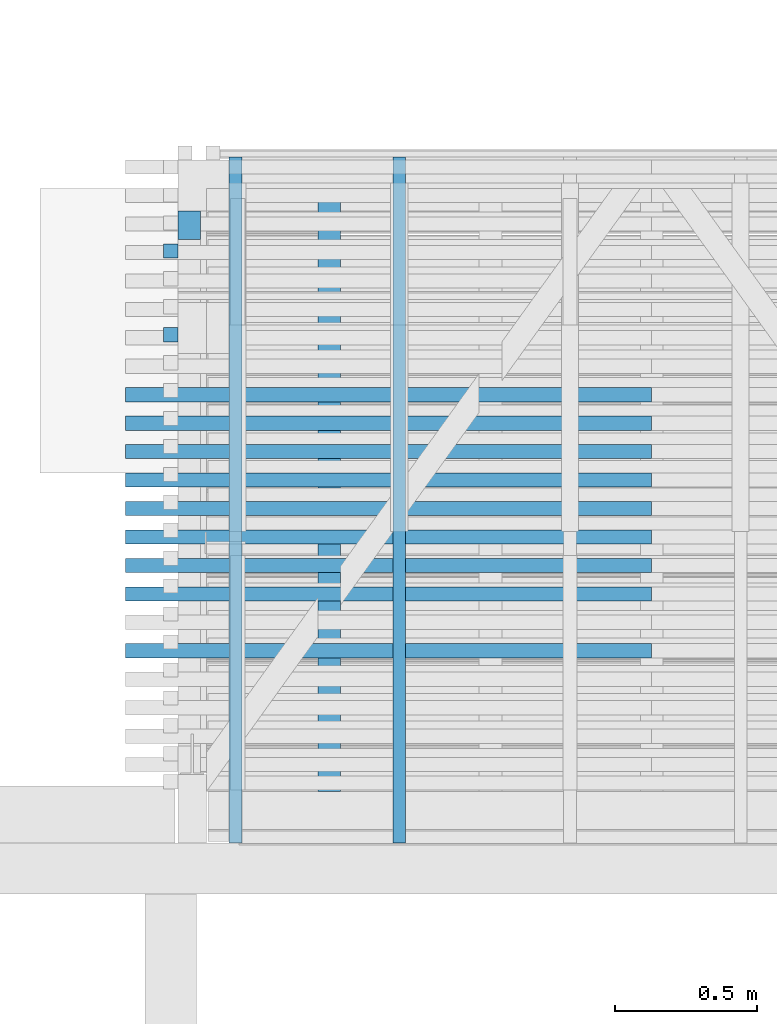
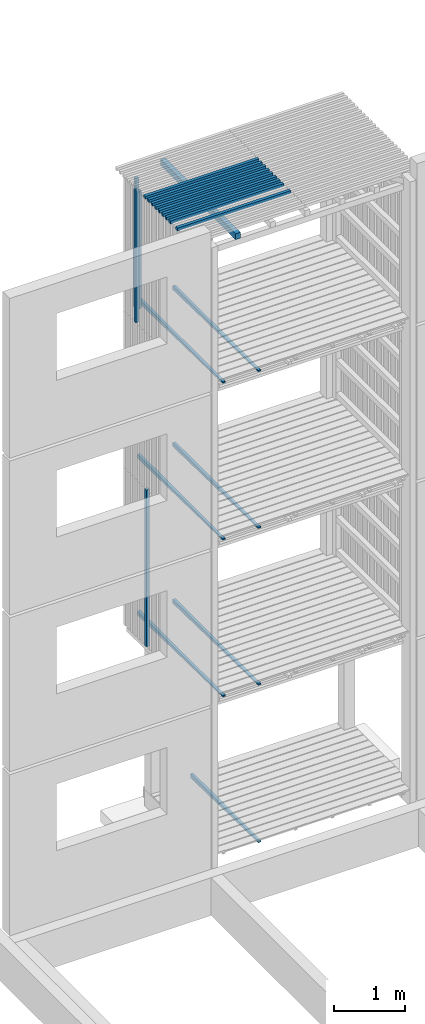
# One storey, part 91 of 182: 20 beams.
"""IFC2X3 building model written with IfcOpenShell, lengths in metres."""

import ifcopenshell
import ifcopenshell.guid

model = None  # the IFC model being written
_history = None  # IfcOwnerHistory: only IFC2X3 demands one
_inside = {}  # id of a spatial element -> (the spatial element, [elements in it])
_under = {}  # id of a project, library or spatial element -> (it, [spatial elements below it])
_declared = {}  # id of a project -> (the project, [libraries it declares])
_typed = {}  # id of a type object -> (the type object, [elements of that type])
_made_of = {}  # id of a material, layer set ... -> (it, [elements and type objects made of it])


def new_model(schema):
    """Start an empty IFC model of exactly this schema.

    Asked for "IFC4X3", IfcOpenShell would pick the latest addendum, in which some entities
    have other attributes; the version numbers below select the first issue.
    IFC2X3 requires an IfcOwnerHistory on every rooted entity: one is made here for all.
    """
    global model, _history
    if schema == "IFC4X3":
        model = ifcopenshell.file(schema_version=(4, 3, 0, 0))
    else:
        model = ifcopenshell.file(schema=schema)
    _inside.clear()
    _under.clear()
    _declared.clear()
    _typed.clear()
    _made_of.clear()
    _history = None
    if model.schema == "IFC2X3":
        org = make("IfcOrganization", Name="unknown")
        user = make(
            "IfcPersonAndOrganization",
            ThePerson=make("IfcPerson", FamilyName="unknown"),
            TheOrganization=org,
        )
        app = make(
            "IfcApplication",
            ApplicationDeveloper=org,
            Version="unknown",
            ApplicationFullName="unknown",
            ApplicationIdentifier="unknown",
        )
        _history = make(
            "IfcOwnerHistory",
            OwningUser=user,
            OwningApplication=app,
            ChangeAction="ADDED",
            CreationDate=0,
        )
    return model


def make(cls, **values):
    """One entity of the class cls with the attributes given. An attribute that is None is left unset."""
    return model.create_entity(
        cls, **{name: value for name, value in values.items() if value is not None}
    )


def rooted(cls, **values):
    """An entity with a GlobalId (a new one), such as an element, a storey or a relation."""
    return make(cls, GlobalId=ifcopenshell.guid.new(), OwnerHistory=_history, **values)


def si_unit(unit_type, name, prefix=None):
    """IfcSIUnit, for example si_unit("LENGTHUNIT", "METRE", prefix="MILLI")."""
    return make("IfcSIUnit", UnitType=unit_type, Prefix=prefix, Name=name)


def assignment(units):
    """IfcUnitAssignment: the units of a project."""
    return None if units is None else make("IfcUnitAssignment", Units=units)


def point(xyz):
    """IfcCartesianPoint."""
    return None if xyz is None else make("IfcCartesianPoint", Coordinates=xyz)


def direction(xyz):
    """IfcDirection."""
    return None if xyz is None else make("IfcDirection", DirectionRatios=xyz)


def frame(location, z_axis=None, x_axis=None):
    """IfcAxis2Placement3D, a coordinate frame: its origin and axes. An axis left out is left unset."""
    return make(
        "IfcAxis2Placement3D",
        Location=point(location),
        Axis=direction(z_axis),
        RefDirection=direction(x_axis),
    )


def origin():
    """The frame at (0, 0, 0) with its axes left unset."""
    return frame((0.0, 0.0, 0.0))


def place(relative_to, where):
    """IfcLocalPlacement: puts the frame where relative to a parent placement (None: the world)."""
    return make(
        "IfcLocalPlacement", PlacementRelTo=relative_to, RelativePlacement=where
    )


def context(
    kind, dimensions, precision=None, world=None, true_north=None, identifier=None
):
    """IfcGeometricRepresentationContext, for example the 3D "Model" context."""
    return make(
        "IfcGeometricRepresentationContext",
        ContextIdentifier=identifier,
        ContextType=kind,
        CoordinateSpaceDimension=dimensions,
        Precision=precision,
        WorldCoordinateSystem=world,
        TrueNorth=true_north,
    )


def project(units=None, contexts=None):
    """IfcProject with its units and contexts."""
    return rooted(
        "IfcProject",
        Name="project",
        RepresentationContexts=contexts,
        UnitsInContext=assignment(units),
    )


def spatial(cls, under=None, at=None, **own):
    """A site, building, storey or space (cls), placed at a placement, below another one or the project."""
    s = rooted(cls, ObjectPlacement=at, **own)
    if under is not None:
        _under.setdefault(under.id(), (under, []))[1].append(s)
    return s


def faces_of(points, faces, orient=None, outer=None):
    """IfcFace entities. A face is a list of loops; a loop is a list of indices into points, from 0.

    orient and outer hold one flag for each loop. By default every Orientation is true, the
    first loop of a face is its IfcFaceOuterBound and the others are IfcFaceBound.
    """
    made = []
    for i, loops in enumerate(faces):
        bounds = []
        for j, loop in enumerate(loops):
            is_outer = j == 0 if outer is None else outer[i][j]
            bounds.append(
                make(
                    "IfcFaceOuterBound" if is_outer else "IfcFaceBound",
                    Bound=make("IfcPolyLoop", Polygon=[points[k] for k in loop]),
                    Orientation=True if orient is None else orient[i][j],
                )
            )
        made.append(make("IfcFace", Bounds=bounds))
    return made


def faceted_brep(points, faces, orient=None, outer=None, voids=None):
    """IfcFacetedBrep: a solid bounded by flat faces; with voids (closed shells), ...WithVoids."""
    shared = [point(p) for p in points]
    hull = make("IfcClosedShell", CfsFaces=faces_of(shared, faces, orient, outer))
    if voids is None:
        return make("IfcFacetedBrep", Outer=hull)
    return make(
        "IfcFacetedBrepWithVoids",
        Outer=hull,
        Voids=[
            make(cls, CfsFaces=faces_of(shared, fs, o, b)) for cls, fs, o, b in voids
        ],
    )


def shape(context_of_items, identifier, shape_type, items):
    """IfcShapeRepresentation: the items that make up one representation, for example the "Body"."""
    return make(
        "IfcShapeRepresentation",
        ContextOfItems=context_of_items,
        RepresentationIdentifier=identifier,
        RepresentationType=shape_type,
        Items=items,
    )


def made_of(thing, what):
    """Note that an element or type object is made of a material, layer set ...; save() writes the relation."""
    if what is not None:
        _made_of.setdefault(what.id(), (what, []))[1].append(thing)
    return thing


def element(
    cls,
    number,
    at=None,
    inside=None,
    cuts=None,
    type_object=None,
    material=None,
    context=None,
    identifier="Body",
    shape_type=None,
    held_by="IfcProductDefinitionShape",
    body=None,
    shapes=None,
    **own,
):
    """One element of the class cls, such as IfcWall. Its Tag is "e" and its number.

    at: its placement. inside: the storey or other place that contains it. cuts: it is an
    opening in that element (IfcRelVoidsElement). A single representation is given by context,
    identifier, shape_type and body (its items); several are given by shapes. held_by: the class
    of the entity that holds the representations. save() writes the other relations.
    """
    e = rooted(cls, Tag="e%d" % number, ObjectPlacement=at, **own)
    if body is not None:
        shapes = [shape(context, identifier, shape_type, body)]
    if shapes is not None:
        e.Representation = make(held_by, Representations=shapes)
    if inside is not None:
        _inside.setdefault(inside.id(), (inside, []))[1].append(e)
    if cuts is not None:
        rooted(
            "IfcRelVoidsElement", RelatingBuildingElement=cuts, RelatedOpeningElement=e
        )
    if type_object is not None:
        _typed.setdefault(type_object.id(), (type_object, []))[1].append(e)
    return made_of(e, material)


def aggregate(whole, parts):
    """IfcRelAggregates: a whole, such as a stair, and the parts it consists of."""
    return rooted("IfcRelAggregates", RelatingObject=whole, RelatedObjects=parts)


def save(model, path):
    """Write the relations noted so far, then the file.

    IfcRelAggregates (storeys below a building ...), IfcRelContainedInSpatialStructure (elements
    in a storey), IfcRelDefinesByType, IfcRelAssociatesMaterial and IfcRelDeclares: one each for
    every whole, place, type object, material and project.
    """
    for whole, parts in _under.values():
        aggregate(whole, parts)
    for where, things in _inside.values():
        rooted(
            "IfcRelContainedInSpatialStructure",
            RelatedElements=things,
            RelatingStructure=where,
        )
    for kind, things in _typed.values():
        rooted("IfcRelDefinesByType", RelatedObjects=things, RelatingType=kind)
    for what, things in _made_of.values():
        rooted("IfcRelAssociatesMaterial", RelatedObjects=things, RelatingMaterial=what)
    for by, libraries in _declared.values():
        rooted("IfcRelDeclares", RelatingContext=by, RelatedDefinitions=libraries)
    model.write(path)


model = new_model("IFC2X3")

# Units and contexts
model_context = context("Model", 3, precision=1e-06, world=origin())
ifc_project = project(units=[si_unit("LENGTHUNIT", "METRE"), si_unit("PLANEANGLEUNIT", "RADIAN")], contexts=[model_context])

# Site, building, storey
site = spatial("IfcSite", under=ifc_project, CompositionType="ELEMENT")
building = spatial("IfcBuilding", under=site, CompositionType="ELEMENT")
storey = spatial("IfcBuildingStorey", under=building, Name="vs", CompositionType="ELEMENT", Elevation=-0.85)

# Beams
placement = place(None, origin())
beam_1_placement = place(placement, frame((42.99040135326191, 6.950532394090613, 7.974999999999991), z_axis=(1.0, 0.0, 0.0), x_axis=(0.0, 0.0, 1.0)))
element("IfcBeam", 1, at=beam_1_placement, inside=storey, Name="Bardage", context=model_context, shape_type="Brep", body=[
    faceted_brep([(0.0, -0.025000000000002, 0.025000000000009), (0.0, 0.025000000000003, 0.025000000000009), (0.0, 0.025000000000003, -0.025000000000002), (0.0, -0.025000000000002, -0.025000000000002), (2.479999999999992, 0.025000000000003, -0.025000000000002), (2.479999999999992, 0.025000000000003, 0.025000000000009), (2.479999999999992, -0.025000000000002, 0.025000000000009), (2.479999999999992, -0.025000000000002, -0.025000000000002), (0.0, 0.025000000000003, 0.025000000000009), (0.0, -0.025000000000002, 0.025000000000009), (2.479999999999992, -0.025000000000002, 0.025000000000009), (2.479999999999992, 0.025000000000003, 0.025000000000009), (0.0, 0.025000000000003, -0.025000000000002), (0.0, 0.025000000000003, 0.025000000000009), (2.479999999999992, 0.025000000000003, 0.025000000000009), (2.479999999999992, 0.025000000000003, -0.025000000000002), (0.0, -0.025000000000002, -0.025000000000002), (0.0, 0.025000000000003, -0.025000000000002), (2.479999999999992, 0.025000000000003, -0.025000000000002), (2.479999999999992, -0.025000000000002, -0.025000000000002), (2.479999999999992, -0.025000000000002, 0.025000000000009), (0.0, -0.025000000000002, 0.025000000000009), (0.0, -0.025000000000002, -0.025000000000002), (2.479999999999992, -0.025000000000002, -0.025000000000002)], [[[0, 1, 2, 3]], [[4, 5, 6, 7]], [[8, 9, 10, 11]], [[12, 13, 14, 15]], [[16, 17, 18, 19]], [[20, 21, 22, 23]]]),
])
beam_2_placement = place(placement, frame((42.99040135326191, 6.65598693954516, 2.575000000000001), z_axis=(1.0, 0.0, 0.0), x_axis=(0.0, 0.0, 1.0)))
element("IfcBeam", 2, at=beam_2_placement, inside=storey, Name="Bardage", context=model_context, shape_type="Brep", body=[
    faceted_brep([(2.699961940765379, -0.025000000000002, 0.025000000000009), (2.699961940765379, -0.025000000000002, -0.025000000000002), (2.699961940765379, 0.024999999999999, -0.025000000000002), (2.699961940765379, 0.024999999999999, 0.025000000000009), (0.0, -0.025000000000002, 0.025000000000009), (2.699961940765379, -0.025000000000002, 0.025000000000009), (2.699961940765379, 0.024999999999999, 0.025000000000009), (0.0, 0.024999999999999, 0.025000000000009), (0.0, -0.025000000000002, 0.025000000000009), (0.0, 0.024999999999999, 0.025000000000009), (0.0, 0.024999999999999, -0.025000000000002), (0.0, -0.025000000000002, -0.025000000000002), (0.0, -0.025000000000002, 0.025000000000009), (0.0, -0.025000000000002, -0.025000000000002), (2.699961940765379, -0.025000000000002, -0.025000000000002), (2.699961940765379, -0.025000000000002, 0.025000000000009), (0.0, -0.025000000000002, -0.025000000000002), (0.0, 0.024999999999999, -0.025000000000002), (2.699961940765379, 0.024999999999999, -0.025000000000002), (2.699961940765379, -0.025000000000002, -0.025000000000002), (0.0, 0.024999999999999, -0.025000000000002), (0.0, 0.024999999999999, 0.025000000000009), (2.699961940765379, 0.024999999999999, 0.025000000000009), (2.699961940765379, 0.024999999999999, -0.025000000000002)], [[[0, 1, 2, 3]], [[4, 5, 6, 7]], [[8, 9, 10, 11]], [[12, 13, 14, 15]], [[16, 17, 18, 19]], [[20, 21, 22, 23]]]),
])
beam_3_placement = place(placement, frame((43.055401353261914, 7.04007784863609, 8.146999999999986), z_axis=(0.0, -1.0, 0.0), x_axis=(0.0, 0.0, 1.0)))
element("IfcBeam", 3, at=beam_3_placement, inside=storey, Name="Support bardage", context=model_context, shape_type="Brep", body=[
    faceted_brep([(2.017999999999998, -0.040000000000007, -0.050000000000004), (2.017999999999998, 0.039999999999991, -0.050000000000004), (2.017999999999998, 0.039999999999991, 0.049999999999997), (2.017999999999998, -0.040000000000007, 0.049999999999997), (1e-15, 0.039999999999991, -0.050000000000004), (1e-15, -0.040000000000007, -0.050000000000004), (1e-15, -0.040000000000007, 0.049999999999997), (1e-15, 0.039999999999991, 0.049999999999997), (2.017999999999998, 0.039999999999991, 0.049999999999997), (2.017999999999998, 0.039999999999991, -0.050000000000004), (1e-15, 0.039999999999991, -0.050000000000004), (1e-15, 0.039999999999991, 0.049999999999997), (1e-15, 0.039999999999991, -0.050000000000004), (2.017999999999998, 0.039999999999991, -0.050000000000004), (2.017999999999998, -0.040000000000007, -0.050000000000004), (1e-15, -0.040000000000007, -0.050000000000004), (1e-15, -0.040000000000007, -0.050000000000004), (2.017999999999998, -0.040000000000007, -0.050000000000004), (2.017999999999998, -0.040000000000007, 0.049999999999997), (1e-15, -0.040000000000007, 0.049999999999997), (1e-15, -0.040000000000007, 0.049999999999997), (2.017999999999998, -0.040000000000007, 0.049999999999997), (2.017999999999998, 0.039999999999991, 0.049999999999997), (1e-15, 0.039999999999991, 0.049999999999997)], [[[0, 1, 2, 3]], [[4, 5, 6, 7]], [[8, 9, 10, 11]], [[12, 13, 14, 15]], [[16, 17, 18, 19]], [[20, 21, 22, 23]]]),
])
beam_4_placement = place(placement, frame((44.68040135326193, 6.045077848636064, 10.47999999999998), z_axis=(0.0, 0.0, 1.0), x_axis=(-1.0, 0.0, 0.0)))
element("IfcBeam", 4, at=beam_4_placement, inside=storey, Name="Bardage", context=model_context, shape_type="Brep", body=[
    faceted_brep([(1.850000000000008, -0.024999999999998, -0.024999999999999), (1.850000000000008, -0.024999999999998, 0.025000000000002), (-1e-15, -0.025000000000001, 0.025000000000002), (-1e-15, -0.025000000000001, -0.024999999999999), (1.850000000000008, -0.024999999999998, 0.025000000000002), (1.850000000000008, -0.024999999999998, -0.024999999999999), (1.850000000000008, 0.024999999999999, -0.024999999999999), (1.850000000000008, 0.024999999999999, 0.025000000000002), (1.850000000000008, 0.024999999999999, -0.024999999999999), (1.850000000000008, -0.024999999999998, -0.024999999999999), (-1e-15, -0.025000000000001, -0.024999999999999), (-1e-15, 0.024999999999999, -0.024999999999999), (1.850000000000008, 0.024999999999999, 0.025000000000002), (1.850000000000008, 0.024999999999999, -0.024999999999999), (-1e-15, 0.024999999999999, -0.024999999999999), (-1e-15, 0.024999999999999, 0.025000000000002), (-1e-15, -0.025000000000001, 0.025000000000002), (1.850000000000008, -0.024999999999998, 0.025000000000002), (1.850000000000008, 0.024999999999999, 0.025000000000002), (-1e-15, 0.024999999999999, 0.025000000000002), (-1e-15, -0.025000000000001, -0.024999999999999), (-1e-15, -0.025000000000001, 0.025000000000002), (-1e-15, 0.024999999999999, 0.025000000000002), (-1e-15, 0.024999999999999, -0.024999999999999)], [[[0, 1, 2, 3]], [[4, 5, 6, 7]], [[8, 9, 10, 11]], [[12, 13, 14, 15]], [[16, 17, 18, 19]], [[20, 21, 22, 23]]]),
])
beam_5_placement = place(placement, frame((43.21790135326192, 4.870077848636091, 5.384400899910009), z_axis=(0.0, 0.0, 1.0), x_axis=(0.0, 1.0, 0.0)))
element("IfcBeam", 5, at=beam_5_placement, inside=storey, Name="Calage", context=model_context, shape_type="Brep", body=[
    faceted_brep([(2.41000000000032, -0.022499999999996, -0.035599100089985), (0.0, -0.022499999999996, 0.012600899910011), (0.0, 0.022500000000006, 0.012600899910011), (2.41000000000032, 0.022500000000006, -0.035599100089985), (0.0, 0.022500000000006, 0.035599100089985), (0.0, 0.022500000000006, 0.012600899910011), (0.0, -0.022499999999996, 0.012600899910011), (0.0, -0.022499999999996, 0.035599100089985), (2.41000000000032, 0.022500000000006, -0.035599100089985), (0.0, 0.022500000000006, 0.012600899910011), (0.0, 0.022500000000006, 0.035599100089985), (2.41000000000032, 0.022500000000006, 0.035599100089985), (2.41000000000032, -0.022499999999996, 0.035599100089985), (0.0, -0.022499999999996, 0.035599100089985), (0.0, -0.022499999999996, 0.012600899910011), (2.41000000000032, -0.022499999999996, -0.035599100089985), (2.41000000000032, 0.022500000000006, 0.035599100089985), (0.0, 0.022500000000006, 0.035599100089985), (0.0, -0.022499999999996, 0.035599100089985), (2.41000000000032, -0.022499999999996, 0.035599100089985), (2.41000000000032, 0.022500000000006, -0.035599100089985), (2.41000000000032, 0.022500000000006, 0.035599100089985), (2.41000000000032, -0.022499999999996, 0.035599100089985), (2.41000000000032, -0.022499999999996, -0.035599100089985)], [[[0, 1, 2, 3]], [[4, 5, 6, 7]], [[8, 9, 10, 11]], [[12, 13, 14, 15]], [[16, 17, 18, 19]], [[20, 21, 22, 23]]]),
])
beam_6_placement = place(placement, frame((43.79340135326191, 4.870077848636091, -0.015599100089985), z_axis=(0.0, 0.0, 1.0), x_axis=(0.0, 1.0, 0.0)))
element("IfcBeam", 6, at=beam_6_placement, inside=storey, Name="Calage", context=model_context, shape_type="Brep", body=[
    faceted_brep([(0.0, 0.022499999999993, 0.002600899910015), (1.91000000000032, 0.022499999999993, -0.035599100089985), (1.91000000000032, -0.022500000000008, -0.035599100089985), (0.0, -0.022500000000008, 0.002600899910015), (0.0, -0.022500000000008, 0.035599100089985), (0.0, 0.022499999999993, 0.035599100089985), (0.0, 0.022499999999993, 0.002600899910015), (0.0, -0.022500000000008, 0.002600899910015), (0.0, 0.022499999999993, 0.035599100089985), (0.0, -0.022500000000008, 0.035599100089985), (1.91000000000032, -0.022500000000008, 0.035599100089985), (1.91000000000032, 0.022499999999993, 0.035599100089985), (0.0, 0.022499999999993, 0.002600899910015), (0.0, 0.022499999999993, 0.035599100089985), (1.91000000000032, 0.022499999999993, 0.035599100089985), (1.91000000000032, 0.022499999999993, -0.035599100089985), (1.91000000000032, 0.022499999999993, -0.035599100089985), (1.91000000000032, 0.022499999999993, 0.035599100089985), (1.91000000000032, -0.022500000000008, 0.035599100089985), (1.91000000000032, -0.022500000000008, -0.035599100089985), (1.91000000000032, -0.022500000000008, -0.035599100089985), (1.91000000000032, -0.022500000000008, 0.035599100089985), (0.0, -0.022500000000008, 0.035599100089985), (0.0, -0.022500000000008, 0.002600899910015)], [[[0, 1, 2, 3]], [[4, 5, 6, 7]], [[8, 9, 10, 11]], [[12, 13, 14, 15]], [[16, 17, 18, 19]], [[20, 21, 22, 23]]]),
])
beam_7_placement = place(placement, frame((44.68040135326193, 6.445077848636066, 10.47999999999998), z_axis=(0.0, 0.0, 1.0), x_axis=(-1.0, -2e-15, 0.0)))
element("IfcBeam", 7, at=beam_7_placement, inside=storey, Name="Bardage", context=model_context, shape_type="Brep", body=[
    faceted_brep([(1.850000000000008, -0.025000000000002, -0.024999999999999), (1.850000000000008, -0.025000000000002, 0.025000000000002), (-1e-15, -0.025000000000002, 0.025000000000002), (-1e-15, -0.025000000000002, -0.024999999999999), (1.850000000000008, -0.025000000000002, 0.025000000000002), (1.850000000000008, -0.025000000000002, -0.024999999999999), (1.850000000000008, 0.024999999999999, -0.024999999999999), (1.850000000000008, 0.024999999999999, 0.025000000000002), (1.850000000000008, 0.024999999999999, -0.024999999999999), (1.850000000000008, -0.025000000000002, -0.024999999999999), (-1e-15, -0.025000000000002, -0.024999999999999), (-1e-15, 0.025000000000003, -0.024999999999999), (1.850000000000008, 0.024999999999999, 0.025000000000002), (1.850000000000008, 0.024999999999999, -0.024999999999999), (-1e-15, 0.025000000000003, -0.024999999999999), (-1e-15, 0.025000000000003, 0.025000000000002), (-1e-15, -0.025000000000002, 0.025000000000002), (1.850000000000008, -0.025000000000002, 0.025000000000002), (1.850000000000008, 0.024999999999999, 0.025000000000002), (-1e-15, 0.025000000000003, 0.025000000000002), (-1e-15, -0.025000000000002, -0.024999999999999), (-1e-15, -0.025000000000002, 0.025000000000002), (-1e-15, 0.025000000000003, 0.025000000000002), (-1e-15, 0.025000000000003, -0.024999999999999)], [[[0, 1, 2, 3]], [[4, 5, 6, 7]], [[8, 9, 10, 11]], [[12, 13, 14, 15]], [[16, 17, 18, 19]], [[20, 21, 22, 23]]]),
])
beam_8_placement = place(placement, frame((43.79340135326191, 4.870077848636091, 2.684400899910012), z_axis=(0.0, 0.0, 1.0), x_axis=(0.0, 1.0, 0.0)))
element("IfcBeam", 8, at=beam_8_placement, inside=storey, Name="Calage", context=model_context, shape_type="Brep", body=[
    faceted_brep([(2.41000000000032, -0.022500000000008, -0.035599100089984), (0.0, -0.022500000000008, 0.012600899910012), (0.0, 0.022499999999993, 0.012600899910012), (2.41000000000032, 0.022499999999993, -0.035599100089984), (0.0, 0.022499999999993, 0.035599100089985), (0.0, 0.022499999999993, 0.012600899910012), (0.0, -0.022500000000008, 0.012600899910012), (0.0, -0.022500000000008, 0.035599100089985), (2.41000000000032, 0.022499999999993, -0.035599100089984), (0.0, 0.022499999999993, 0.012600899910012), (0.0, 0.022499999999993, 0.035599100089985), (2.41000000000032, 0.022499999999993, 0.035599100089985), (2.41000000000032, -0.022500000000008, 0.035599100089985), (0.0, -0.022500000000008, 0.035599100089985), (0.0, -0.022500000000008, 0.012600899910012), (2.41000000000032, -0.022500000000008, -0.035599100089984), (2.41000000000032, 0.022499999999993, 0.035599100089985), (0.0, 0.022499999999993, 0.035599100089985), (0.0, -0.022500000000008, 0.035599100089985), (2.41000000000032, -0.022500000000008, 0.035599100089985), (2.41000000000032, 0.022499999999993, -0.035599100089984), (2.41000000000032, 0.022499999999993, 0.035599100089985), (2.41000000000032, -0.022500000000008, 0.035599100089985), (2.41000000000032, -0.022500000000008, -0.035599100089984)], [[[0, 1, 2, 3]], [[4, 5, 6, 7]], [[8, 9, 10, 11]], [[12, 13, 14, 15]], [[16, 17, 18, 19]], [[20, 21, 22, 23]]]),
])
beam_9_placement = place(placement, frame((43.21790135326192, 4.870077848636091, 2.684400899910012), z_axis=(0.0, 0.0, 1.0), x_axis=(0.0, 1.0, 0.0)))
element("IfcBeam", 9, at=beam_9_placement, inside=storey, Name="Calage", context=model_context, shape_type="Brep", body=[
    faceted_brep([(2.41000000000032, -0.022499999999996, -0.035599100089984), (0.0, -0.022499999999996, 0.012600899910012), (0.0, 0.022500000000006, 0.012600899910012), (2.41000000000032, 0.022500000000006, -0.035599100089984), (0.0, 0.022500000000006, 0.035599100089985), (0.0, 0.022500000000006, 0.012600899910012), (0.0, -0.022499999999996, 0.012600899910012), (0.0, -0.022499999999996, 0.035599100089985), (2.41000000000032, 0.022500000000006, -0.035599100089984), (0.0, 0.022500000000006, 0.012600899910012), (0.0, 0.022500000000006, 0.035599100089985), (2.41000000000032, 0.022500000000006, 0.035599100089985), (2.41000000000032, -0.022499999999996, 0.035599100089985), (0.0, -0.022499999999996, 0.035599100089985), (0.0, -0.022499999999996, 0.012600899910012), (2.41000000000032, -0.022499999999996, -0.035599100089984), (2.41000000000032, 0.022500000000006, 0.035599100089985), (0.0, 0.022500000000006, 0.035599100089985), (0.0, -0.022499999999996, 0.035599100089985), (2.41000000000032, -0.022499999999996, 0.035599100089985), (2.41000000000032, 0.022500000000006, -0.035599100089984), (2.41000000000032, 0.022500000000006, 0.035599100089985), (2.41000000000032, -0.022499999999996, 0.035599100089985), (2.41000000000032, -0.022499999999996, -0.035599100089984)], [[[0, 1, 2, 3]], [[4, 5, 6, 7]], [[8, 9, 10, 11]], [[12, 13, 14, 15]], [[16, 17, 18, 19]], [[20, 21, 22, 23]]]),
])
beam_10_placement = place(placement, frame((44.68040135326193, 5.545077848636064, 10.47999999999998), z_axis=(0.0, 0.0, 1.0), x_axis=(-1.0, 0.0, 0.0)))
element("IfcBeam", 10, at=beam_10_placement, inside=storey, Name="Bardage", context=model_context, shape_type="Brep", body=[
    faceted_brep([(1.850000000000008, -0.024999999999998, -0.024999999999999), (1.850000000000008, -0.024999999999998, 0.025000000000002), (-1e-15, -0.025000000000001, 0.025000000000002), (-1e-15, -0.025000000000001, -0.024999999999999), (1.850000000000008, -0.024999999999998, 0.025000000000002), (1.850000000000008, -0.024999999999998, -0.024999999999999), (1.850000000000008, 0.024999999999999, -0.024999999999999), (1.850000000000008, 0.024999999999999, 0.025000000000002), (1.850000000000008, 0.024999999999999, -0.024999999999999), (1.850000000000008, -0.024999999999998, -0.024999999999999), (-1e-15, -0.025000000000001, -0.024999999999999), (-1e-15, 0.024999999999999, -0.024999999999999), (1.850000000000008, 0.024999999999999, 0.025000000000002), (1.850000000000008, 0.024999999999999, -0.024999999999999), (-1e-15, 0.024999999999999, -0.024999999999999), (-1e-15, 0.024999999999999, 0.025000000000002), (-1e-15, -0.025000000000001, 0.025000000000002), (1.850000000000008, -0.024999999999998, 0.025000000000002), (1.850000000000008, 0.024999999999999, 0.025000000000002), (-1e-15, 0.024999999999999, 0.025000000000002), (-1e-15, -0.025000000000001, -0.024999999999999), (-1e-15, -0.025000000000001, 0.025000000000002), (-1e-15, 0.024999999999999, 0.025000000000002), (-1e-15, 0.024999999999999, -0.024999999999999)], [[[0, 1, 2, 3]], [[4, 5, 6, 7]], [[8, 9, 10, 11]], [[12, 13, 14, 15]], [[16, 17, 18, 19]], [[20, 21, 22, 23]]]),
])
beam_11_placement = place(placement, frame((43.79340135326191, 4.870077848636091, 8.084400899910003), z_axis=(0.0, 0.0, 1.0), x_axis=(0.0, 1.0, 0.0)))
element("IfcBeam", 11, at=beam_11_placement, inside=storey, Name="Calage", context=model_context, shape_type="Brep", body=[
    faceted_brep([(2.41000000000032, -0.022500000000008, -0.035599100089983), (0.0, -0.022500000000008, 0.012600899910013), (0.0, 0.022499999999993, 0.012600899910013), (2.41000000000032, 0.022499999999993, -0.035599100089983), (0.0, 0.022499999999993, 0.035599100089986), (0.0, 0.022499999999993, 0.012600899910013), (0.0, -0.022500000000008, 0.012600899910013), (0.0, -0.022500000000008, 0.035599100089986), (2.41000000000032, 0.022499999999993, -0.035599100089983), (0.0, 0.022499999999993, 0.012600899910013), (0.0, 0.022499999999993, 0.035599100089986), (2.41000000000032, 0.022499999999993, 0.035599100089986), (2.41000000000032, -0.022500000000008, 0.035599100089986), (0.0, -0.022500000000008, 0.035599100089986), (0.0, -0.022500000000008, 0.012600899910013), (2.41000000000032, -0.022500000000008, -0.035599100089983), (2.41000000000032, 0.022499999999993, 0.035599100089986), (0.0, 0.022499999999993, 0.035599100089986), (0.0, -0.022500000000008, 0.035599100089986), (2.41000000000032, -0.022500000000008, 0.035599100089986), (2.41000000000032, 0.022499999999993, -0.035599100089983), (2.41000000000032, 0.022499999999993, 0.035599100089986), (2.41000000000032, -0.022500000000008, 0.035599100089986), (2.41000000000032, -0.022500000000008, -0.035599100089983)], [[[0, 1, 2, 3]], [[4, 5, 6, 7]], [[8, 9, 10, 11]], [[12, 13, 14, 15]], [[16, 17, 18, 19]], [[20, 21, 22, 23]]]),
])
beam_12_placement = place(placement, frame((43.21790135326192, 4.870077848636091, 8.084400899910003), z_axis=(0.0, 0.0, 1.0), x_axis=(0.0, 1.0, 0.0)))
element("IfcBeam", 12, at=beam_12_placement, inside=storey, Name="Calage", context=model_context, shape_type="Brep", body=[
    faceted_brep([(2.41000000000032, -0.022499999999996, -0.035599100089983), (0.0, -0.022499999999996, 0.012600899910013), (0.0, 0.022500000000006, 0.012600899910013), (2.41000000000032, 0.022500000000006, -0.035599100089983), (0.0, 0.022500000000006, 0.035599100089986), (0.0, 0.022500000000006, 0.012600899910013), (0.0, -0.022499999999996, 0.012600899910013), (0.0, -0.022499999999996, 0.035599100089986), (2.41000000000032, 0.022500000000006, -0.035599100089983), (0.0, 0.022500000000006, 0.012600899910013), (0.0, 0.022500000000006, 0.035599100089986), (2.41000000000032, 0.022500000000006, 0.035599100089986), (2.41000000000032, -0.022499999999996, 0.035599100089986), (0.0, -0.022499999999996, 0.035599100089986), (0.0, -0.022499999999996, 0.012600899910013), (2.41000000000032, -0.022499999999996, -0.035599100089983), (2.41000000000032, 0.022500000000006, 0.035599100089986), (0.0, 0.022500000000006, 0.035599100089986), (0.0, -0.022499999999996, 0.035599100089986), (2.41000000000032, -0.022499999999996, 0.035599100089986), (2.41000000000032, 0.022500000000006, -0.035599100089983), (2.41000000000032, 0.022500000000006, 0.035599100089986), (2.41000000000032, -0.022499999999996, 0.035599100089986), (2.41000000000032, -0.022499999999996, -0.035599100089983)], [[[0, 1, 2, 3]], [[4, 5, 6, 7]], [[8, 9, 10, 11]], [[12, 13, 14, 15]], [[16, 17, 18, 19]], [[20, 21, 22, 23]]]),
])
beam_13_placement = place(placement, frame((43.79340135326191, 4.870077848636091, 5.384400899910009), z_axis=(0.0, 0.0, 1.0), x_axis=(0.0, 1.0, 0.0)))
element("IfcBeam", 13, at=beam_13_placement, inside=storey, Name="Calage", context=model_context, shape_type="Brep", body=[
    faceted_brep([(2.41000000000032, -0.022500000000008, -0.035599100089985), (0.0, -0.022500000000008, 0.012600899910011), (0.0, 0.022499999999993, 0.012600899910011), (2.41000000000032, 0.022499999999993, -0.035599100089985), (0.0, 0.022499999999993, 0.035599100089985), (0.0, 0.022499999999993, 0.012600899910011), (0.0, -0.022500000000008, 0.012600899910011), (0.0, -0.022500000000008, 0.035599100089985), (2.41000000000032, 0.022499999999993, -0.035599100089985), (0.0, 0.022499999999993, 0.012600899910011), (0.0, 0.022499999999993, 0.035599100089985), (2.41000000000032, 0.022499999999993, 0.035599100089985), (2.41000000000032, -0.022500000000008, 0.035599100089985), (0.0, -0.022500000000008, 0.035599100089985), (0.0, -0.022500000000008, 0.012600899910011), (2.41000000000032, -0.022500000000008, -0.035599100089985), (2.41000000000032, 0.022499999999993, 0.035599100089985), (0.0, 0.022499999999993, 0.035599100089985), (0.0, -0.022500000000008, 0.035599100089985), (2.41000000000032, -0.022500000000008, 0.035599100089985), (2.41000000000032, 0.022499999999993, -0.035599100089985), (2.41000000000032, 0.022499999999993, 0.035599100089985), (2.41000000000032, -0.022500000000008, 0.035599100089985), (2.41000000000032, -0.022500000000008, -0.035599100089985)], [[[0, 1, 2, 3]], [[4, 5, 6, 7]], [[8, 9, 10, 11]], [[12, 13, 14, 15]], [[16, 17, 18, 19]], [[20, 21, 22, 23]]]),
])
beam_14_placement = place(placement, frame((44.68040135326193, 6.245077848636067, 10.47999999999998), z_axis=(0.0, 0.0, 1.0), x_axis=(-1.0, -2e-15, 0.0)))
element("IfcBeam", 14, at=beam_14_placement, inside=storey, Name="Bardage", context=model_context, shape_type="Brep", body=[
    faceted_brep([(1.850000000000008, -0.025000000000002, -0.024999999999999), (1.850000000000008, -0.025000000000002, 0.025000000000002), (-1e-15, -0.024999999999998, 0.025000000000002), (-1e-15, -0.024999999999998, -0.024999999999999), (1.850000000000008, -0.025000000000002, 0.025000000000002), (1.850000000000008, -0.025000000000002, -0.024999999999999), (1.850000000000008, 0.024999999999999, -0.024999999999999), (1.850000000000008, 0.024999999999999, 0.025000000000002), (1.850000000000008, 0.024999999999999, -0.024999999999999), (1.850000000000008, -0.025000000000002, -0.024999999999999), (-1e-15, -0.024999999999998, -0.024999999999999), (-1e-15, 0.025000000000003, -0.024999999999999), (1.850000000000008, 0.024999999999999, 0.025000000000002), (1.850000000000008, 0.024999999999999, -0.024999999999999), (-1e-15, 0.025000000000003, -0.024999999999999), (-1e-15, 0.025000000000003, 0.025000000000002), (-1e-15, -0.024999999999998, 0.025000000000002), (1.850000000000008, -0.025000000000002, 0.025000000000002), (1.850000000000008, 0.024999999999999, 0.025000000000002), (-1e-15, 0.025000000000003, 0.025000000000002), (-1e-15, -0.024999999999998, -0.024999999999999), (-1e-15, -0.024999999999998, 0.025000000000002), (-1e-15, 0.025000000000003, 0.025000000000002), (-1e-15, 0.025000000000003, -0.024999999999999)], [[[0, 1, 2, 3]], [[4, 5, 6, 7]], [[8, 9, 10, 11]], [[12, 13, 14, 15]], [[16, 17, 18, 19]], [[20, 21, 22, 23]]]),
])
beam_15_placement = place(placement, frame((44.68040135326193, 5.745077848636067, 10.47999999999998), z_axis=(0.0, 0.0, 1.0), x_axis=(-1.0, 0.0, 0.0)))
element("IfcBeam", 15, at=beam_15_placement, inside=storey, Name="Bardage", context=model_context, shape_type="Brep", body=[
    faceted_brep([(1.850000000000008, -0.024999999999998, -0.024999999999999), (1.850000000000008, -0.024999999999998, 0.025000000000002), (-1e-15, -0.024999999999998, 0.025000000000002), (-1e-15, -0.024999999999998, -0.024999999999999), (1.850000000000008, -0.024999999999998, 0.025000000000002), (1.850000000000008, -0.024999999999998, -0.024999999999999), (1.850000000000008, 0.025000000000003, -0.024999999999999), (1.850000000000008, 0.025000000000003, 0.025000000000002), (1.850000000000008, 0.025000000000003, -0.024999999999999), (1.850000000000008, -0.024999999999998, -0.024999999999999), (-1e-15, -0.024999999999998, -0.024999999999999), (-1e-15, 0.024999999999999, -0.024999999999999), (1.850000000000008, 0.025000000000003, 0.025000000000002), (1.850000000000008, 0.025000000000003, -0.024999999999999), (-1e-15, 0.024999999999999, -0.024999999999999), (-1e-15, 0.024999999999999, 0.025000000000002), (-1e-15, -0.024999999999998, 0.025000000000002), (1.850000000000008, -0.024999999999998, 0.025000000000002), (1.850000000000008, 0.025000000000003, 0.025000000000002), (-1e-15, 0.024999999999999, 0.025000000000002), (-1e-15, -0.024999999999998, -0.024999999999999), (-1e-15, -0.024999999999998, 0.025000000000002), (-1e-15, 0.024999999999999, 0.025000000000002), (-1e-15, 0.024999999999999, -0.024999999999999)], [[[0, 1, 2, 3]], [[4, 5, 6, 7]], [[8, 9, 10, 11]], [[12, 13, 14, 15]], [[16, 17, 18, 19]], [[20, 21, 22, 23]]]),
])
beam_16_placement = place(placement, frame((44.68040135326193, 5.845077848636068, 10.47999999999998), z_axis=(0.0, 0.0, 1.0), x_axis=(-1.0, -2e-15, 0.0)))
element("IfcBeam", 16, at=beam_16_placement, inside=storey, Name="Bardage", context=model_context, shape_type="Brep", body=[
    faceted_brep([(1.850000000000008, -0.025000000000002, -0.024999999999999), (1.850000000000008, -0.025000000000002, 0.025000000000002), (-1e-15, -0.024999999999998, 0.025000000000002), (-1e-15, -0.024999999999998, -0.024999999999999), (1.850000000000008, -0.025000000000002, 0.025000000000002), (1.850000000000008, -0.025000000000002, -0.024999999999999), (1.850000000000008, 0.025000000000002, -0.024999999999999), (1.850000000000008, 0.025000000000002, 0.025000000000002), (1.850000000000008, 0.025000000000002, -0.024999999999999), (1.850000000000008, -0.025000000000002, -0.024999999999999), (-1e-15, -0.024999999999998, -0.024999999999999), (-1e-15, 0.025000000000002, -0.024999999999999), (1.850000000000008, 0.025000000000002, 0.025000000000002), (1.850000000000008, 0.025000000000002, -0.024999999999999), (-1e-15, 0.025000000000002, -0.024999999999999), (-1e-15, 0.025000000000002, 0.025000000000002), (-1e-15, -0.024999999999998, 0.025000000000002), (1.850000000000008, -0.025000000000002, 0.025000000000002), (1.850000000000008, 0.025000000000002, 0.025000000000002), (-1e-15, 0.025000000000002, 0.025000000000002), (-1e-15, -0.024999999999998, -0.024999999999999), (-1e-15, -0.024999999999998, 0.025000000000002), (-1e-15, 0.025000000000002, 0.025000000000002), (-1e-15, 0.025000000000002, -0.024999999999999)], [[[0, 1, 2, 3]], [[4, 5, 6, 7]], [[8, 9, 10, 11]], [[12, 13, 14, 15]], [[16, 17, 18, 19]], [[20, 21, 22, 23]]]),
])
beam_17_placement = place(placement, frame((44.68040135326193, 6.345077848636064, 10.47999999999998), z_axis=(0.0, 0.0, 1.0), x_axis=(-1.0, 0.0, 0.0)))
element("IfcBeam", 17, at=beam_17_placement, inside=storey, Name="Bardage", context=model_context, shape_type="Brep", body=[
    faceted_brep([(1.850000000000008, -0.025000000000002, -0.024999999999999), (1.850000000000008, -0.025000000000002, 0.025000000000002), (-1e-15, -0.025000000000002, 0.025000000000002), (-1e-15, -0.025000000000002, -0.024999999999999), (1.850000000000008, -0.025000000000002, 0.025000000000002), (1.850000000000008, -0.025000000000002, -0.024999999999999), (1.850000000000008, 0.025000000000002, -0.024999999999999), (1.850000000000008, 0.025000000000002, 0.025000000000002), (1.850000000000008, 0.025000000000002, -0.024999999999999), (1.850000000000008, -0.025000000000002, -0.024999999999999), (-1e-15, -0.025000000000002, -0.024999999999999), (-1e-15, 0.024999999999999, -0.024999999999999), (1.850000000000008, 0.025000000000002, 0.025000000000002), (1.850000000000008, 0.025000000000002, -0.024999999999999), (-1e-15, 0.024999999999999, -0.024999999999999), (-1e-15, 0.024999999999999, 0.025000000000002), (-1e-15, -0.025000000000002, 0.025000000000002), (1.850000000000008, -0.025000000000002, 0.025000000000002), (1.850000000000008, 0.025000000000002, 0.025000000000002), (-1e-15, 0.024999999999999, 0.025000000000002), (-1e-15, -0.025000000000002, -0.024999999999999), (-1e-15, -0.025000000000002, 0.025000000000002), (-1e-15, 0.024999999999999, 0.025000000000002), (-1e-15, 0.024999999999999, -0.024999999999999)], [[[0, 1, 2, 3]], [[4, 5, 6, 7]], [[8, 9, 10, 11]], [[12, 13, 14, 15]], [[16, 17, 18, 19]], [[20, 21, 22, 23]]]),
])
beam_18_placement = place(placement, frame((44.68040135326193, 6.145077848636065, 10.47999999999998), z_axis=(0.0, 0.0, 1.0), x_axis=(-1.0, 0.0, 0.0)))
element("IfcBeam", 18, at=beam_18_placement, inside=storey, Name="Bardage", context=model_context, shape_type="Brep", body=[
    faceted_brep([(1.850000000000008, -0.024999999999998, -0.024999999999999), (1.850000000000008, -0.024999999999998, 0.025000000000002), (-1e-15, -0.024999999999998, 0.025000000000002), (-1e-15, -0.024999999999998, -0.024999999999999), (1.850000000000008, -0.024999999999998, 0.025000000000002), (1.850000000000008, -0.024999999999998, -0.024999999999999), (1.850000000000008, 0.024999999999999, -0.024999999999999), (1.850000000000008, 0.024999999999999, 0.025000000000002), (1.850000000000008, 0.024999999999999, -0.024999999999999), (1.850000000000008, -0.024999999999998, -0.024999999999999), (-1e-15, -0.024999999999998, -0.024999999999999), (-1e-15, 0.024999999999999, -0.024999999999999), (1.850000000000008, 0.024999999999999, 0.025000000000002), (1.850000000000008, 0.024999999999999, -0.024999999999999), (-1e-15, 0.024999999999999, -0.024999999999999), (-1e-15, 0.024999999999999, 0.025000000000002), (-1e-15, -0.024999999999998, 0.025000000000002), (1.850000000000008, -0.024999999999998, 0.025000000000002), (1.850000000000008, 0.024999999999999, 0.025000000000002), (-1e-15, 0.024999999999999, 0.025000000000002), (-1e-15, -0.024999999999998, -0.024999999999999), (-1e-15, -0.024999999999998, 0.025000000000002), (-1e-15, 0.024999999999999, 0.025000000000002), (-1e-15, 0.024999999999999, -0.024999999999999)], [[[0, 1, 2, 3]], [[4, 5, 6, 7]], [[8, 9, 10, 11]], [[12, 13, 14, 15]], [[16, 17, 18, 19]], [[20, 21, 22, 23]]]),
])
beam_19_placement = place(placement, frame((44.68040135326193, 5.945077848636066, 10.47999999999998), z_axis=(0.0, 0.0, 1.0), x_axis=(-1.0, -2e-15, 0.0)))
element("IfcBeam", 19, at=beam_19_placement, inside=storey, Name="Bardage", context=model_context, shape_type="Brep", body=[
    faceted_brep([(1.850000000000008, -0.025000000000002, -0.024999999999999), (1.850000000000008, -0.025000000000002, 0.025000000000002), (-1e-15, -0.024999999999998, 0.025000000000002), (-1e-15, -0.024999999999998, -0.024999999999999), (1.850000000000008, -0.025000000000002, 0.025000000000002), (1.850000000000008, -0.025000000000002, -0.024999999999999), (1.850000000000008, 0.024999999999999, -0.024999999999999), (1.850000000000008, 0.024999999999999, 0.025000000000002), (1.850000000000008, 0.024999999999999, -0.024999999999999), (1.850000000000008, -0.025000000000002, -0.024999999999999), (-1e-15, -0.024999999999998, -0.024999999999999), (0.0, 0.025000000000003, -0.024999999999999), (1.850000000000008, 0.024999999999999, 0.025000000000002), (1.850000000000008, 0.024999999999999, -0.024999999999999), (0.0, 0.025000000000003, -0.024999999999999), (0.0, 0.025000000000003, 0.025000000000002), (-1e-15, -0.024999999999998, 0.025000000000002), (1.850000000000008, -0.025000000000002, 0.025000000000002), (1.850000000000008, 0.024999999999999, 0.025000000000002), (0.0, 0.025000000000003, 0.025000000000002), (-1e-15, -0.024999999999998, -0.024999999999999), (-1e-15, -0.024999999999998, 0.025000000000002), (0.0, 0.025000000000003, 0.025000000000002), (0.0, 0.025000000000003, -0.024999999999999)], [[[0, 1, 2, 3]], [[4, 5, 6, 7]], [[8, 9, 10, 11]], [[12, 13, 14, 15]], [[16, 17, 18, 19]], [[20, 21, 22, 23]]]),
])
beam_20_placement = place(placement, frame((43.54706801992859, 5.050077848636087, 10.404999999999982), z_axis=(0.0, 0.0, 1.0), x_axis=(0.0, 1.0, 0.0)))
element("IfcBeam", 20, at=beam_20_placement, inside=storey, Name="Support bardage", context=model_context, shape_type="Brep", body=[
    faceted_brep([(2.120000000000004, -0.039999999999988, 0.050000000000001), (2.120000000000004, 0.04000000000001, 0.050000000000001), (3e-15, 0.04000000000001, 0.050000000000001), (3e-15, -0.039999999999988, 0.050000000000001), (3e-15, 0.04000000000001, 0.050000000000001), (2.120000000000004, 0.04000000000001, 0.050000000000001), (2.120000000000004, 0.04000000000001, -0.050000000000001), (3e-15, 0.04000000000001, -0.050000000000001), (2.120000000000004, 0.04000000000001, 0.050000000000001), (2.120000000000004, -0.039999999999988, 0.050000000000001), (2.120000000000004, -0.039999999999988, -0.050000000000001), (2.120000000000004, 0.04000000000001, -0.050000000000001), (2.120000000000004, -0.039999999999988, -0.050000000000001), (2.120000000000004, -0.039999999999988, 0.050000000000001), (3e-15, -0.039999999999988, 0.050000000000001), (3e-15, -0.039999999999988, -0.050000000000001), (3e-15, 0.04000000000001, -0.050000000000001), (2.120000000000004, 0.04000000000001, -0.050000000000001), (2.120000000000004, -0.039999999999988, -0.050000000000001), (3e-15, -0.039999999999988, -0.050000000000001), (3e-15, 0.04000000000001, 0.050000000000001), (3e-15, 0.04000000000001, -0.050000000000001), (3e-15, -0.039999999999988, -0.050000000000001), (3e-15, -0.039999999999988, 0.050000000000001)], [[[0, 1, 2, 3]], [[4, 5, 6, 7]], [[8, 9, 10, 11]], [[12, 13, 14, 15]], [[16, 17, 18, 19]], [[20, 21, 22, 23]]]),
])

save(model, "model.ifc")
